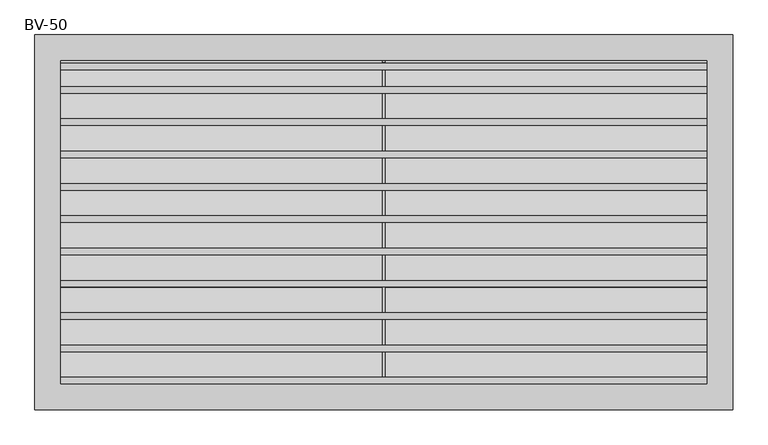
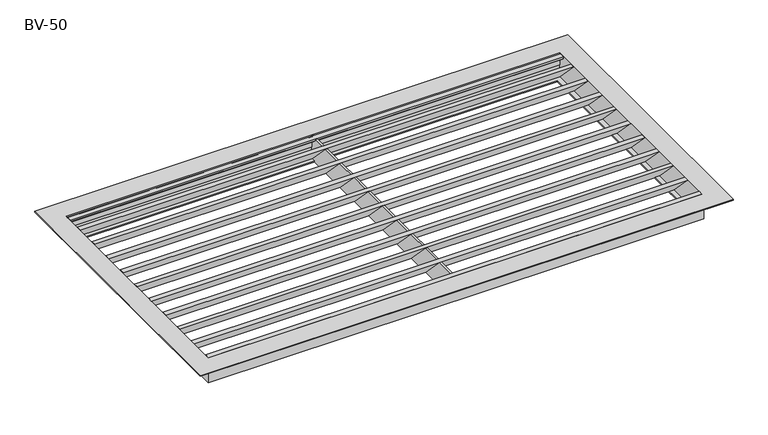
"""IFC4 building model written with IfcOpenShell, lengths in millimetres: air terminal geometry, AIR_FB_Outside air grille BV_SMA : BV-50."""

from ifc_helpers import new_model, si_unit, frame, origin, place, context, project, spatial, polyline, outline, extrude, faceted_brep, source, transform, mapped, element, save


def bv_50_3e811bb8(model_context):
    return source(origin(), model_context, "Body", "SolidModel", [
        extrude(outline(polyline([(210.0694981, 2.0), (210.0694981, 0.6939238), (202.3735338, 0.6939238), (249.9430991, -48.8), (258.800293, -48.8), (258.800293, -46.5069251), (255.903107, -43.6097391), (256.7462329, -42.7666133), (259.9828093, -46.0031897), (259.9828093, -50.0), (250.0, -50.0), (200.0694981, 2.0), (210.0694981, 2.0)])), frame((-500.0, 0.0, 0.0), z_axis=(1.0, 0.0, 0.0), x_axis=(0.0, 1.0, 0.0)), (0.0, 0.0, 1.0), 1000.0),
        extrude(outline(polyline([(160.0694981, 2.0), (160.0694981, 0.6939238), (152.3735338, 0.6939238), (199.9430991, -48.8), (208.800293, -48.8), (208.800293, -46.5069251), (205.903107, -43.6097391), (206.7462329, -42.7666133), (209.9828093, -46.0031897), (209.9828093, -50.0), (200.0, -50.0), (150.0694981, 2.0), (160.0694981, 2.0)])), frame((-500.0, 0.0, 0.0), z_axis=(1.0, 0.0, 0.0), x_axis=(0.0, 1.0, 0.0)), (0.0, 0.0, 1.0), 1000.0),
        extrude(outline(polyline([(110.0694981, 2.0), (110.0694981, 0.6939238), (102.3735338, 0.6939238), (149.9430991, -48.8), (158.800293, -48.8), (158.800293, -46.5069251), (155.903107, -43.6097391), (156.7462329, -42.7666133), (159.9828093, -46.0031897), (159.9828093, -50.0), (150.0, -50.0), (100.0694981, 2.0), (110.0694981, 2.0)])), frame((-500.0, 0.0, 0.0), z_axis=(1.0, 0.0, 0.0), x_axis=(0.0, 1.0, 0.0)), (0.0, 0.0, 1.0), 1000.0),
        extrude(outline(polyline([(60.0694981, 2.0), (60.0694981, 0.6939238), (52.3735338, 0.6939238), (99.9430991, -48.8), (108.800293, -48.8), (108.800293, -46.5069251), (105.903107, -43.6097391), (106.7462329, -42.7666133), (109.9828093, -46.0031897), (109.9828093, -50.0), (100.0, -50.0), (50.0694981, 2.0), (60.0694981, 2.0)])), frame((-500.0, 0.0, 0.0), z_axis=(1.0, 0.0, 0.0), x_axis=(0.0, 1.0, 0.0)), (0.0, 0.0, 1.0), 1000.0),
        extrude(outline(polyline([(10.0694981, 2.0), (10.0694981, 0.6939238), (2.3735338, 0.6939238), (49.9430991, -48.8), (58.800293, -48.8), (58.800293, -46.5069251), (55.903107, -43.6097391), (56.7462329, -42.7666133), (59.9828093, -46.0031897), (59.9828093, -50.0), (50.0, -50.0), (0.0694981, 2.0), (10.0694981, 2.0)])), frame((-500.0, 0.0, 0.0), z_axis=(1.0, 0.0, 0.0), x_axis=(0.0, 1.0, 0.0)), (0.0, 0.0, 1.0), 1000.0),
        extrude(outline(polyline([(-39.9305019, 2.0), (-39.9305019, 0.6939238), (-47.6264662, 0.6939238), (-0.0569009, -48.8), (8.800293, -48.8), (8.800293, -46.5069251), (5.903107, -43.6097391), (6.7462329, -42.7666133), (9.9828093, -46.0031897), (9.9828093, -50.0), (0.0, -50.0), (-49.9305019, 2.0), (-39.9305019, 2.0)])), frame((-500.0, 0.0, 0.0), z_axis=(1.0, 0.0, 0.0), x_axis=(0.0, 1.0, 0.0)), (0.0, 0.0, 1.0), 1000.0),
        extrude(outline(polyline([(-89.9305019, 2.0), (-89.9305019, 0.6939238), (-97.6264662, 0.6939238), (-50.0569009, -48.8), (-41.199707, -48.8), (-41.199707, -46.5069251), (-44.096893, -43.6097391), (-43.2537671, -42.7666133), (-40.0171907, -46.0031897), (-40.0171907, -50.0), (-50.0, -50.0), (-99.9305019, 2.0), (-89.9305019, 2.0)])), frame((-500.0, 0.0, 0.0), z_axis=(1.0, 0.0, 0.0), x_axis=(0.0, 1.0, 0.0)), (0.0, 0.0, 1.0), 1000.0),
        extrude(outline(polyline([(-139.9305019, 2.0), (-139.9305019, 0.6939238), (-147.6264662, 0.6939238), (-100.0569009, -48.8), (-91.199707, -48.8), (-91.199707, -46.5069251), (-94.096893, -43.6097391), (-93.2537671, -42.7666133), (-90.0171907, -46.0031897), (-90.0171907, -50.0), (-100.0, -50.0), (-149.9305019, 2.0), (-139.9305019, 2.0)])), frame((-500.0, 0.0, 0.0), z_axis=(1.0, 0.0, 0.0), x_axis=(0.0, 1.0, 0.0)), (0.0, 0.0, 1.0), 1000.0),
        extrude(outline(polyline([(-189.9305019, 2.0), (-189.9305019, 0.6939238), (-197.6264662, 0.6939238), (-150.0569009, -48.8), (-141.199707, -48.8), (-141.199707, -46.5069251), (-144.096893, -43.6097391), (-143.2537671, -42.7666133), (-140.0171907, -46.0031897), (-140.0171907, -50.0), (-150.0, -50.0), (-199.9305019, 2.0), (-189.9305019, 2.0)])), frame((-500.0, 0.0, 0.0), z_axis=(1.0, 0.0, 0.0), x_axis=(0.0, 1.0, 0.0)), (0.0, 0.0, 1.0), 1000.0),
        extrude(outline(polyline([(-239.9305019, 2.0), (-239.9305019, 0.6939238), (-247.6264662, 0.6939238), (-200.0569009, -48.8), (-191.199707, -48.8), (-191.199707, -46.5069251), (-194.096893, -43.6097391), (-193.2537671, -42.7666133), (-190.0171907, -46.0031897), (-190.0171907, -50.0), (-200.0, -50.0), (-249.9305019, 2.0), (-239.9305019, 2.0)])), frame((-500.0, 0.0, 0.0), z_axis=(1.0, 0.0, 0.0), x_axis=(0.0, 1.0, 0.0)), (0.0, 0.0, 1.0), 1000.0),
        extrude(outline(polyline([(2.0, 250.0), (2.0, -250.0), (-2.0, -250.0), (-2.0, 250.0), (2.0, 250.0)])), frame((0.0, 0.0, -50.0), z_axis=(0.0, 0.0, 1.0), x_axis=(1.0, 0.0, 0.0)), (0.0, 0.0, 1.0), 50.0),
        extrude(outline(polyline([(246.070888, 2.0), (250.0, -1.929112), (250.0, -23.0), (249.0, -23.0), (249.0, -2.547689), (245.57333, 0.800048), (237.270717, 0.800048), (237.270717, -1.50293), (240.44955, -4.681885), (239.600795, -5.529785), (236.070766, -2.000489), (236.070766, 2.0), (246.070888, 2.0)])), frame((-500.0, 0.0, 0.0), z_axis=(1.0, 0.0, 0.0), x_axis=(0.0, 1.0, 0.0)), (0.0, 0.0, 1.0), 1000.0),
        faceted_brep([(490.0, 240.0, -48.0), (490.0, 240.0, -50.0), (490.0, -240.0, -50.0), (490.0, -240.0, -48.0), (500.0, 250.0, 2.0), (500.0, 250.0, -48.0), (500.0, -250.0, -48.0), (500.0, -250.0, 2.0), (540.0, 290.0, 0.0), (540.0, 290.0, 2.0), (540.0, -290.0, 2.0), (540.0, -290.0, 0.0), (502.000122, 252.000122, -50.0), (502.000122, 252.000122, 0.0), (502.000122, -252.000122, 0.0), (502.000122, -252.000122, -50.0), (-490.0, -240.0, -50.0), (-490.0, -240.0, -48.0), (-500.0, -250.0, -48.0), (-500.0, -250.0, 2.0), (-540.0, -290.0, 2.0), (-540.0, -290.0, 0.0), (-502.000122, -252.000122, 0.0), (-502.000122, -252.000122, -50.0), (-490.0, 240.0, -50.0), (-490.0, 240.0, -48.0), (-500.0, 250.0, -48.0), (-500.0, 250.0, 2.0), (-540.0, 290.0, 2.0), (-540.0, 290.0, 0.0), (-502.000122, 252.000122, 0.0), (-502.000122, 252.000122, -50.0)], [[[0, 1, 2, 3]], [[4, 5, 6, 7]], [[8, 9, 10, 11]], [[12, 13, 14, 15]], [[3, 2, 16, 17]], [[7, 6, 18, 19]], [[11, 10, 20, 21]], [[15, 14, 22, 23]], [[17, 16, 24, 25]], [[19, 18, 26, 27]], [[21, 20, 28, 29]], [[23, 22, 30, 31]], [[15, 23, 31, 12], [1, 24, 16, 2]], [[25, 24, 1, 0]], [[5, 26, 18, 6], [3, 17, 25, 0]], [[27, 26, 5, 4]], [[9, 28, 20, 10], [7, 19, 27, 4]], [[29, 28, 9, 8]], [[11, 21, 29, 8], [13, 30, 22, 14]], [[31, 30, 13, 12]]]),
    ])


if __name__ == "__main__":
    model = new_model("IFC4")
    model_context = context("Model", 3, world=origin())
    ifc_project = project(units=[si_unit("LENGTHUNIT", "METRE", prefix="MILLI")], contexts=[model_context])
    site = spatial("IfcSite", under=ifc_project)
    building = spatial("IfcBuilding", under=site)
    placement = place(None, origin())
    bv_50_shape = bv_50_3e811bb8(model_context)
    element("IfcAirTerminal", 1, ObjectType="AIR_FB_Outside air grille BV_SMA : BV-50", at=placement, inside=building, context=model_context, shape_type="MappedRepresentation", body=[
        mapped(bv_50_shape, transform((0.0, 0.0, 0.0), x_axis=(1.0, 0.0, 0.0), y_axis=(0.0, 1.0, 0.0), z_axis=(0.0, 0.0, 1.0))),
    ])
    save(model, "model.ifc")
